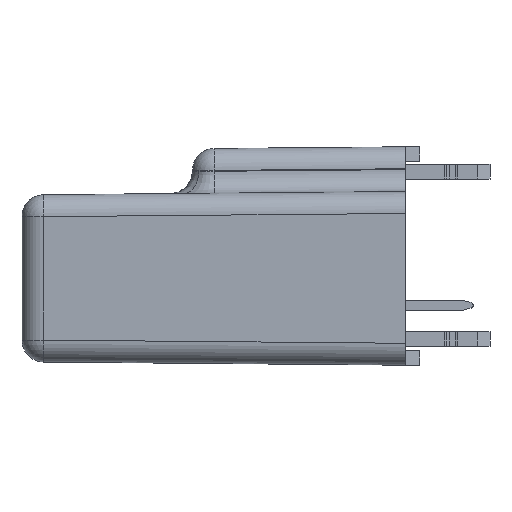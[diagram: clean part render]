
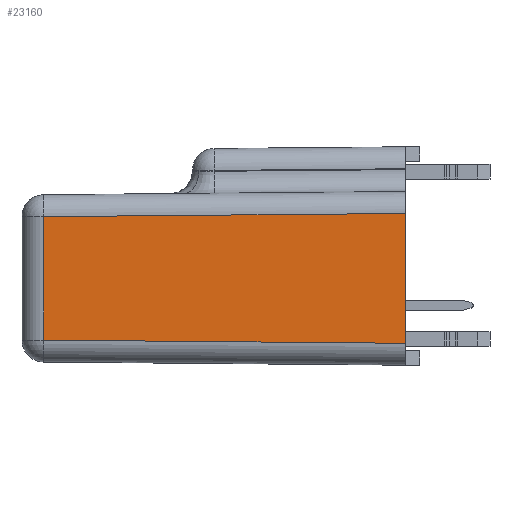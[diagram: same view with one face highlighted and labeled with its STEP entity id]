
A CAD part, left-side view. The second image highlights one B-rep face of the part: STEP entity #23160.
In plain terms, the highlighted planar face has unit normal (-1, 0.009, 0).
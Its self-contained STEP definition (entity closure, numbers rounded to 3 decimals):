
#22770=CARTESIAN_POINT('',(-27.111,-4.982,
4.27));
#22780=DIRECTION('',(-1.,0.009,0.));
#22790=DIRECTION('',(0.,0.,-1.));
#22800=AXIS2_PLACEMENT_3D('',#22770,#22780,#22790);
#22810=PLANE('',#22800);
#22820=CARTESIAN_POINT('',(-26.908,18.331,
-4.384));
#22830=DIRECTION('',(0.,0.,1.));
#22840=VECTOR('',#22830,1.);
#22850=LINE('',#22820,#22840);
#22860=CARTESIAN_POINT('',(-26.908,18.331,
-4.384));
#22870=VERTEX_POINT('',#22860);
#22880=CARTESIAN_POINT('',(-26.908,18.331,
4.058));
#22890=VERTEX_POINT('',#22880);
#22900=EDGE_CURVE('',#22870,#22890,#22850,.T.);
#22910=ORIENTED_EDGE('',*,*,#22900,.F.);
#22920=CARTESIAN_POINT('',(-27.124,-6.382,
4.274));
#22930=DIRECTION('',(0.009,1.,
-0.009));
#22940=VECTOR('',#22930,1.);
#22950=LINE('',#22920,#22940);
#22960=CARTESIAN_POINT('',(-27.124,-6.382,
4.274));
#22970=VERTEX_POINT('',#22960);
#22980=EDGE_CURVE('',#22970,#22890,#22950,.T.);
#22990=ORIENTED_EDGE('',*,*,#22980,.T.);
#23000=CARTESIAN_POINT('',(-27.124,-6.382,
-4.6));
#23010=DIRECTION('',(0.,0.,1.));
#23020=VECTOR('',#23010,1.);
#23030=LINE('',#23000,#23020);
#23040=CARTESIAN_POINT('',(-27.124,-6.382,
-4.6));
#23050=VERTEX_POINT('',#23040);
#23060=EDGE_CURVE('',#23050,#22970,#23030,.T.);
#23070=ORIENTED_EDGE('',*,*,#23060,.T.);
#23080=CARTESIAN_POINT('',(-26.908,18.331,
-4.384));
#23090=DIRECTION('',(-0.009,-1.,
-0.009));
#23100=VECTOR('',#23090,1.);
#23110=LINE('',#23080,#23100);
#23120=EDGE_CURVE('',#22870,#23050,#23110,.T.);
#23130=ORIENTED_EDGE('',*,*,#23120,.T.);
#23140=EDGE_LOOP('',(#23130,#23070,#22990,#22910));
#23150=FACE_OUTER_BOUND('',#23140,.T.);
#23160=ADVANCED_FACE('',(#23150),#22810,.T.);
